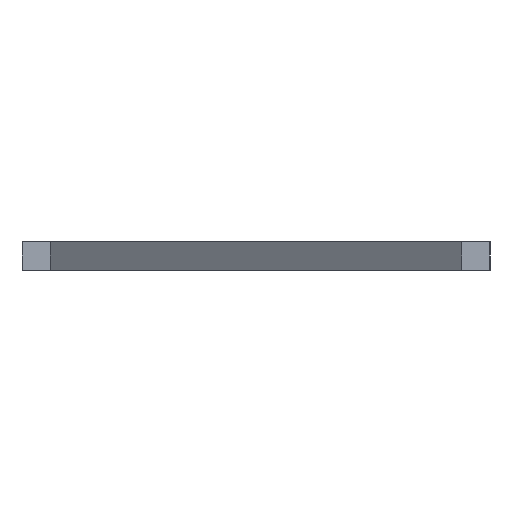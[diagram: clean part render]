
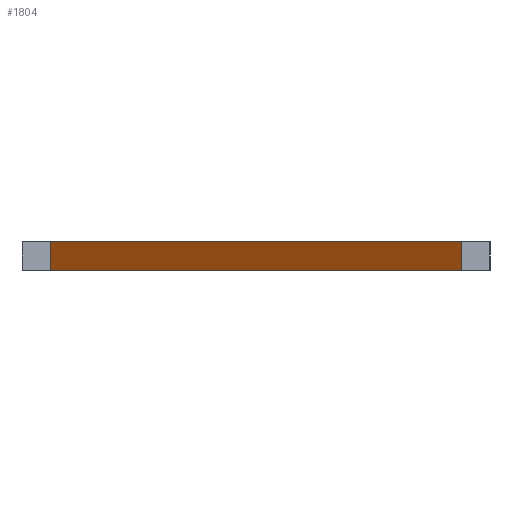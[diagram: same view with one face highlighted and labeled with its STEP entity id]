
A CAD part, left-side view. The second image highlights one B-rep face of the part: STEP entity #1804.
In plain terms, the highlighted planar face has unit normal (-0.783, 0.623, 0).
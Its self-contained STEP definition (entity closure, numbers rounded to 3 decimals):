
#21 = EDGE_CURVE('',#22,#24,#26,.T.);
#22 = VERTEX_POINT('',#23);
#23 = CARTESIAN_POINT('',(23.,18.,0.));
#24 = VERTEX_POINT('',#25);
#25 = CARTESIAN_POINT('',(23.,18.,18.));
#26 = SURFACE_CURVE('',#27,(#31,#43),.PCURVE_S1.);
#27 = LINE('',#28,#29);
#28 = CARTESIAN_POINT('',(23.,18.,0.));
#29 = VECTOR('',#30,1.);
#30 = DIRECTION('',(0.,0.,1.));
#31 = PCURVE('',#32,#37);
#32 = PLANE('',#33);
#33 = AXIS2_PLACEMENT_3D('',#34,#35,#36);
#34 = CARTESIAN_POINT('',(23.,18.,0.));
#35 = DIRECTION('',(0.,1.,0.));
#36 = DIRECTION('',(1.,0.,0.));
#37 = DEFINITIONAL_REPRESENTATION('',(#38),#42);
#38 = LINE('',#39,#40);
#39 = CARTESIAN_POINT('',(0.,0.));
#40 = VECTOR('',#41,1.);
#41 = DIRECTION('',(0.,-1.));
#42 = ( GEOMETRIC_REPRESENTATION_CONTEXT(2) 
PARAMETRIC_REPRESENTATION_CONTEXT() REPRESENTATION_CONTEXT('2D SPACE',''
  ) );
#43 = PCURVE('',#44,#49);
#44 = PLANE('',#45);
#45 = AXIS2_PLACEMENT_3D('',#46,#47,#48);
#46 = CARTESIAN_POINT('',(233.,282.,0.));
#47 = DIRECTION('',(0.783,-0.623,0.));
#48 = DIRECTION('',(-0.623,-0.783,0.));
#49 = DEFINITIONAL_REPRESENTATION('',(#50),#54);
#50 = LINE('',#51,#52);
#51 = CARTESIAN_POINT('',(337.337,0.));
#52 = VECTOR('',#53,1.);
#53 = DIRECTION('',(0.,-1.));
#54 = ( GEOMETRIC_REPRESENTATION_CONTEXT(2) 
PARAMETRIC_REPRESENTATION_CONTEXT() REPRESENTATION_CONTEXT('2D SPACE',''
  ) );
#72 = PLANE('',#73);
#73 = AXIS2_PLACEMENT_3D('',#74,#75,#76);
#74 = CARTESIAN_POINT('',(400.,117.645,18.));
#75 = DIRECTION('',(0.,0.,1.));
#76 = DIRECTION('',(1.,0.,-0.));
#126 = PLANE('',#127);
#127 = AXIS2_PLACEMENT_3D('',#128,#129,#130);
#128 = CARTESIAN_POINT('',(400.,117.645,0.));
#129 = DIRECTION('',(0.,0.,1.));
#130 = DIRECTION('',(1.,0.,-0.));
#1701 = PLANE('',#1702);
#1702 = AXIS2_PLACEMENT_3D('',#1703,#1704,#1705);
#1703 = CARTESIAN_POINT('',(255.,282.,0.));
#1704 = DIRECTION('',(0.,-1.,0.));
#1705 = DIRECTION('',(-1.,0.,0.));
#1739 = VERTEX_POINT('',#1740);
#1740 = CARTESIAN_POINT('',(233.,282.,18.));
#1761 = EDGE_CURVE('',#1762,#1739,#1764,.T.);
#1762 = VERTEX_POINT('',#1763);
#1763 = CARTESIAN_POINT('',(233.,282.,0.));
#1764 = SURFACE_CURVE('',#1765,(#1769,#1776),.PCURVE_S1.);
#1765 = LINE('',#1766,#1767);
#1766 = CARTESIAN_POINT('',(233.,282.,0.));
#1767 = VECTOR('',#1768,1.);
#1768 = DIRECTION('',(0.,0.,1.));
#1769 = PCURVE('',#1701,#1770);
#1770 = DEFINITIONAL_REPRESENTATION('',(#1771),#1775);
#1771 = LINE('',#1772,#1773);
#1772 = CARTESIAN_POINT('',(22.,0.));
#1773 = VECTOR('',#1774,1.);
#1774 = DIRECTION('',(0.,-1.));
#1775 = ( GEOMETRIC_REPRESENTATION_CONTEXT(2) 
PARAMETRIC_REPRESENTATION_CONTEXT() REPRESENTATION_CONTEXT('2D SPACE',''
  ) );
#1776 = PCURVE('',#44,#1777);
#1777 = DEFINITIONAL_REPRESENTATION('',(#1778),#1782);
#1778 = LINE('',#1779,#1780);
#1779 = CARTESIAN_POINT('',(0.,0.));
#1780 = VECTOR('',#1781,1.);
#1781 = DIRECTION('',(0.,-1.));
#1782 = ( GEOMETRIC_REPRESENTATION_CONTEXT(2) 
PARAMETRIC_REPRESENTATION_CONTEXT() REPRESENTATION_CONTEXT('2D SPACE',''
  ) );
#1804 = ADVANCED_FACE('',(#1805),#44,.F.);
#1805 = FACE_BOUND('',#1806,.F.);
#1806 = EDGE_LOOP('',(#1807,#1808,#1829,#1830));
#1807 = ORIENTED_EDGE('',*,*,#1761,.T.);
#1808 = ORIENTED_EDGE('',*,*,#1809,.T.);
#1809 = EDGE_CURVE('',#1739,#24,#1810,.T.);
#1810 = SURFACE_CURVE('',#1811,(#1815,#1822),.PCURVE_S1.);
#1811 = LINE('',#1812,#1813);
#1812 = CARTESIAN_POINT('',(233.,282.,18.));
#1813 = VECTOR('',#1814,1.);
#1814 = DIRECTION('',(-0.623,-0.783,0.));
#1815 = PCURVE('',#44,#1816);
#1816 = DEFINITIONAL_REPRESENTATION('',(#1817),#1821);
#1817 = LINE('',#1818,#1819);
#1818 = CARTESIAN_POINT('',(0.,-18.));
#1819 = VECTOR('',#1820,1.);
#1820 = DIRECTION('',(1.,0.));
#1821 = ( GEOMETRIC_REPRESENTATION_CONTEXT(2) 
PARAMETRIC_REPRESENTATION_CONTEXT() REPRESENTATION_CONTEXT('2D SPACE',''
  ) );
#1822 = PCURVE('',#72,#1823);
#1823 = DEFINITIONAL_REPRESENTATION('',(#1824),#1828);
#1824 = LINE('',#1825,#1826);
#1825 = CARTESIAN_POINT('',(-167.,164.355));
#1826 = VECTOR('',#1827,1.);
#1827 = DIRECTION('',(-0.623,-0.783));
#1828 = ( GEOMETRIC_REPRESENTATION_CONTEXT(2) 
PARAMETRIC_REPRESENTATION_CONTEXT() REPRESENTATION_CONTEXT('2D SPACE',''
  ) );
#1829 = ORIENTED_EDGE('',*,*,#21,.F.);
#1830 = ORIENTED_EDGE('',*,*,#1831,.F.);
#1831 = EDGE_CURVE('',#1762,#22,#1832,.T.);
#1832 = SURFACE_CURVE('',#1833,(#1837,#1844),.PCURVE_S1.);
#1833 = LINE('',#1834,#1835);
#1834 = CARTESIAN_POINT('',(233.,282.,0.));
#1835 = VECTOR('',#1836,1.);
#1836 = DIRECTION('',(-0.623,-0.783,0.));
#1837 = PCURVE('',#44,#1838);
#1838 = DEFINITIONAL_REPRESENTATION('',(#1839),#1843);
#1839 = LINE('',#1840,#1841);
#1840 = CARTESIAN_POINT('',(0.,0.));
#1841 = VECTOR('',#1842,1.);
#1842 = DIRECTION('',(1.,0.));
#1843 = ( GEOMETRIC_REPRESENTATION_CONTEXT(2) 
PARAMETRIC_REPRESENTATION_CONTEXT() REPRESENTATION_CONTEXT('2D SPACE',''
  ) );
#1844 = PCURVE('',#126,#1845);
#1845 = DEFINITIONAL_REPRESENTATION('',(#1846),#1850);
#1846 = LINE('',#1847,#1848);
#1847 = CARTESIAN_POINT('',(-167.,164.355));
#1848 = VECTOR('',#1849,1.);
#1849 = DIRECTION('',(-0.623,-0.783));
#1850 = ( GEOMETRIC_REPRESENTATION_CONTEXT(2) 
PARAMETRIC_REPRESENTATION_CONTEXT() REPRESENTATION_CONTEXT('2D SPACE',''
  ) );
